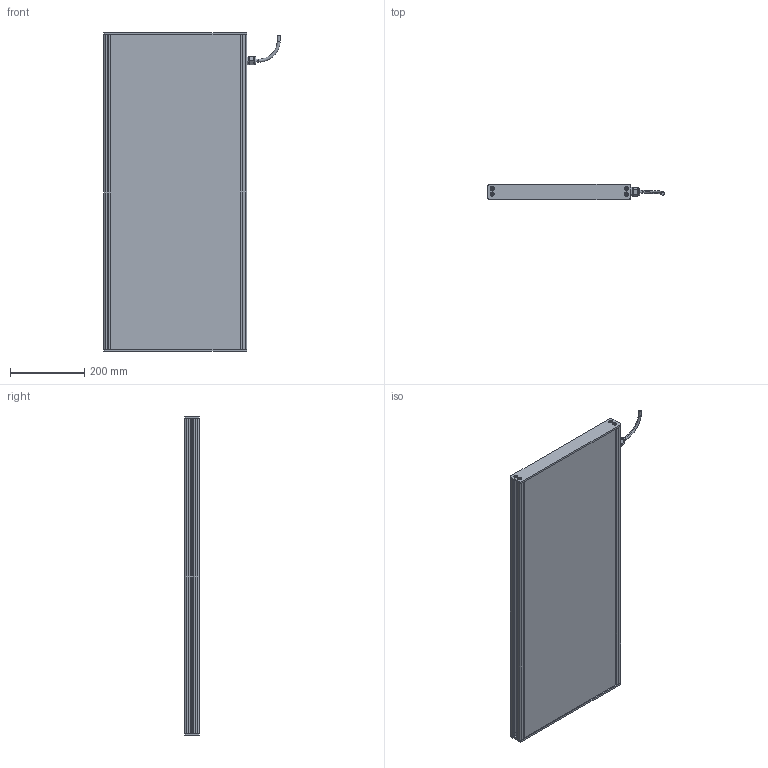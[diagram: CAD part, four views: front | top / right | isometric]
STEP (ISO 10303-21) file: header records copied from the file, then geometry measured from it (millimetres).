
FILE_DESCRIPTION (( 'STEP AP214' ), '1' );
FILE_NAME ('EFFI-BL-350-850T-1M12P.STEP', '2021-07-02T10:01:54', ( '' ), ( '' ), 'SwSTEP 2.0', 'SolidWorks 2021', '' );
FILE_SCHEMA (( 'AUTOMOTIVE_DESIGN' ));
Length unit declared in the file: millimetre
Products named in the file (7): profile modif_lg 99.5 mm; M12 power; EFFI-BL-350-850T-1M12P; bord fin modif_lg 436.5 mm; 003776; Pièce2^EFFI-BL-XXX-YYYT + M12P
Assembly tree (14 placements, depth 2):
  EFFI-BL-350-850T-1M12P
    bord fin modif_lg 436.5 mm  x2
    profile modif_lg 99.5 mm
    Pièce2^EFFI-BL-XXX-YYYT + M12P
    profile modif_lg 99.5 mm
    M12 power
    003776  x8
Bounding box: 476.45 x 40 x 860 mm (x, y, z)
Volume: 11446878.8 mm3; surface area: 1001222.3 mm2
Topology: 13 solids, 16 shells, 568 faces, 1441 edges, 923 vertices
Faces by surface type: plane 327, bspline 125, cylinder 94, cone 18, torus 4
Entity records: 15235 total; most frequent: CARTESIAN_POINT 5059, ORIENTED_EDGE 2014, DIRECTION 1715, EDGE_CURVE 1009, VECTOR 755, LINE 755, VERTEX_POINT 666, AXIS2_PLACEMENT_3D 480
